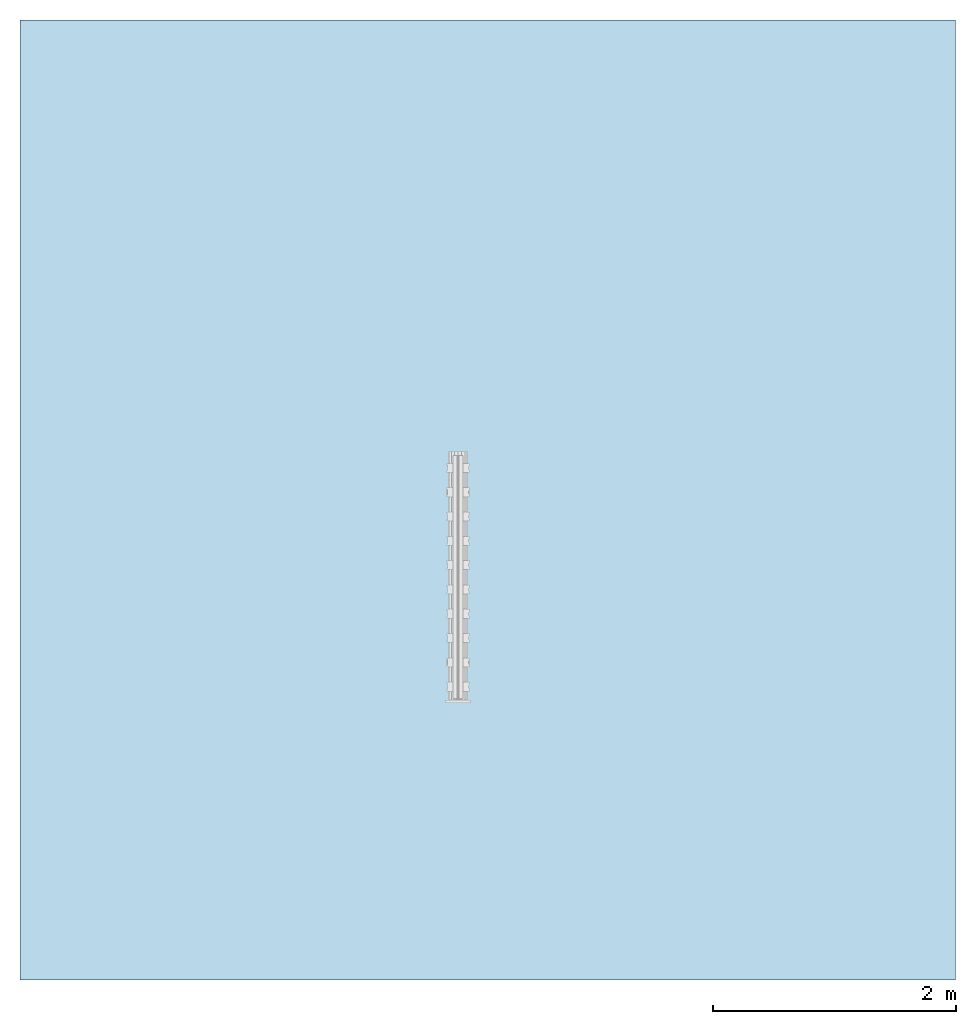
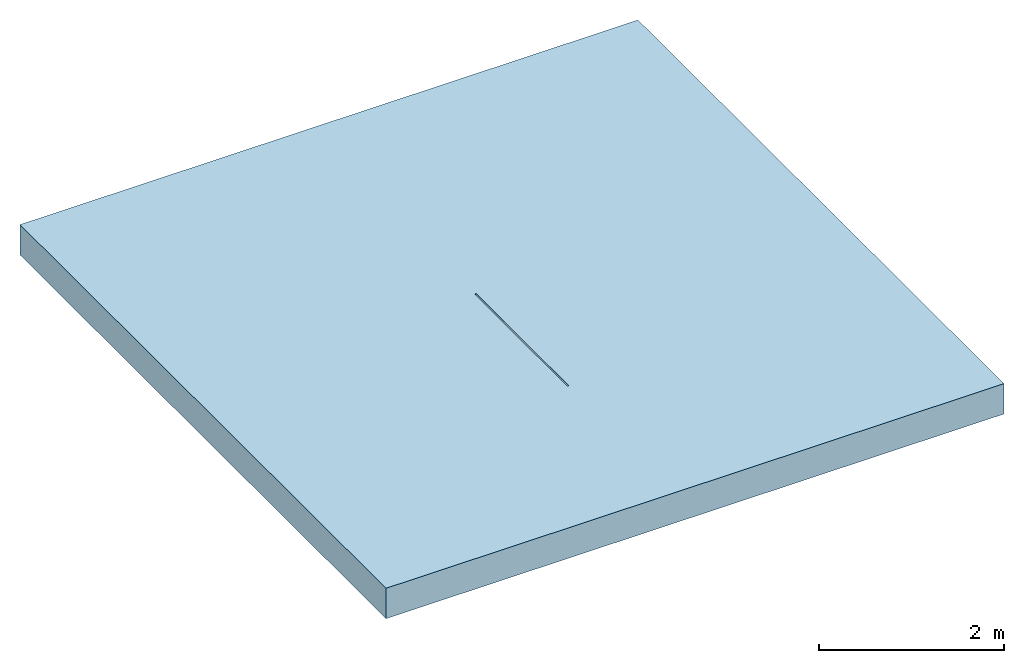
# One storey, incomplete: 1 slab, 1 opening.
"""IFC2X3 building model written with IfcOpenShell, lengths in millimetres."""

from ifc_helpers import new_model, entity, si_unit, converted_unit, direction, frame, frame_2d, origin, place, context, subcontext, project, spatial, polyline, rectangle, outline, extrude, material, layer, layer_set, layer_usage, element, save


model = new_model("IFC2X3")

# Units and contexts
model_context = context("Model", 3, precision=1e-06, world=origin(), true_north=direction((2.0, 6.12303176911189e-17, 1.0)))
context_of_model = context(None, 3, precision=1e-06, world=origin(), true_north=direction((2.0, 6.12303176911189e-17, 1.0)))
body_context = subcontext(model_context, "Body", "Model", "MODEL_VIEW")
ifc_project = project(units=[si_unit("LENGTHUNIT", "METRE", prefix="MILLI"), si_unit("AREAUNIT", "SQUARE_METRE", prefix="MILLI"), si_unit("VOLUMEUNIT", "CUBIC_METRE", prefix="MILLI"), converted_unit("PLANEANGLEUNIT", "DEGREE", entity("IfcRatioMeasure", 0.0174532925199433), si_unit("PLANEANGLEUNIT", "RADIAN"), dimensions=[0, 0, 0, 0, 0, 0, 0]), si_unit("TIMEUNIT", "SECOND")], contexts=[model_context, context_of_model])

# Site, building, storey
site_placement = place(None, origin())
site = spatial("IfcSite", under=ifc_project, at=site_placement, Name="Default", CompositionType="ELEMENT")
building_placement = place(site_placement, origin())
building = spatial("IfcBuilding", under=site, at=building_placement, CompositionType="ELEMENT")
storey_placement = place(building_placement, origin())
storey = spatial("IfcBuildingStorey", under=building, at=storey_placement, Name="Level 1", CompositionType="ELEMENT", Elevation=0.0)

# Slab, opening
ifc_material = material(Name="Plant")
ifc_layer = layer(ifc_material, 400.0)
ifc_layer_set = layer_set([ifc_layer], Name="Floor:Generic Floor - 400mm")
ifc_layer_usage = layer_usage(ifc_layer_set, "AXIS3", "POSITIVE", 0.0)
slab_placement = place(storey_placement, frame((-12747.8626183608, -2890.92363446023, -400.0)))
slab = element("IfcSlab", 1, at=slab_placement, inside=storey, material=ifc_layer_usage, Name="Floor:Generic Floor - 400mm", ObjectType="Floor:Generic Floor - 400mm", PredefinedType="FLOOR", context=body_context, shape_type="SweptSolid", body=[
    extrude(rectangle(XDim=7900.0, YDim=7700.0, at=frame_2d((0.0, 0.0), x_axis=(0.0, -1.0))), frame((3850.0, 3950.0, 400.0), z_axis=(0.0, 0.0, -1.0), x_axis=(-1.0, 0.0, 0.0)), (0.0, 0.0, 1.0), 400.0),
])
opening_placement = place(slab_placement, origin())
element("IfcOpeningElement", 2, at=opening_placement, cuts=slab, ObjectType="Opening", context=body_context, shape_type="SweptSolid", body=[
    extrude(outline(polyline([(-140.0, 9.0), (-140.0, -9.0), (-110.0, -9.0), (-110.0, -108.0), (360.0, -108.0), (360.0, 108.0), (-110.0, 108.0), (-110.0, 9.0), (-140.0, 9.0)])), frame((3604.85823138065, 2315.31219286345, 260.0), z_axis=(0.0, -1.0, 0.0), x_axis=(0.0, 0.0, -1.0)), (0.0, 0.0, -1.0), 2000.0),
])

save(model, "model.ifc")
